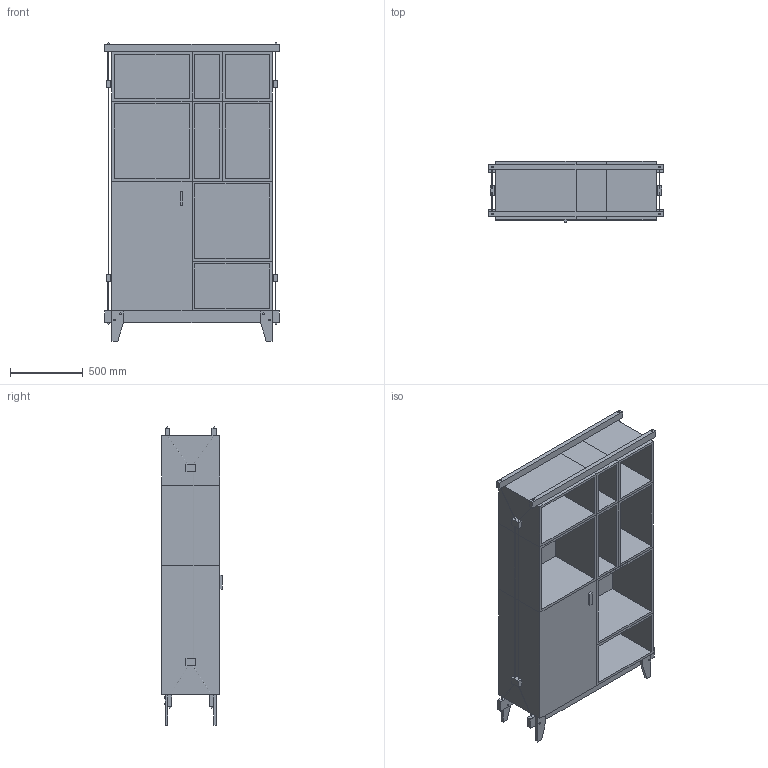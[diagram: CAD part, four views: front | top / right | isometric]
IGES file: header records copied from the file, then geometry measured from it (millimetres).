
Start section: Data from Parasolid IGES Translator 17.0.49, Copyright(c) 2006 Siemens P LM Software. All Rights Reserved.
Global section: file name: Saam G.igs; native system: By Siemens PLM Incorporated; preprocessor: XPlus GENERIC/IGES 17.0.49; author: Noname; organization: Noname; date: 20170605.063009; units: metre
Bounding box: 1200 x 418 x 2052 mm (x, y, z)
Volume: 323096533 mm3; surface area: 16509522.4 mm2
Topology: 37 solids, 37 shells, 251 faces, 500 edges, 332 vertices
Faces by surface type: plane 215, cylinder 28, sphere 8
Full cylindrical faces by diameter (mm): 3 x12, 12 x16
